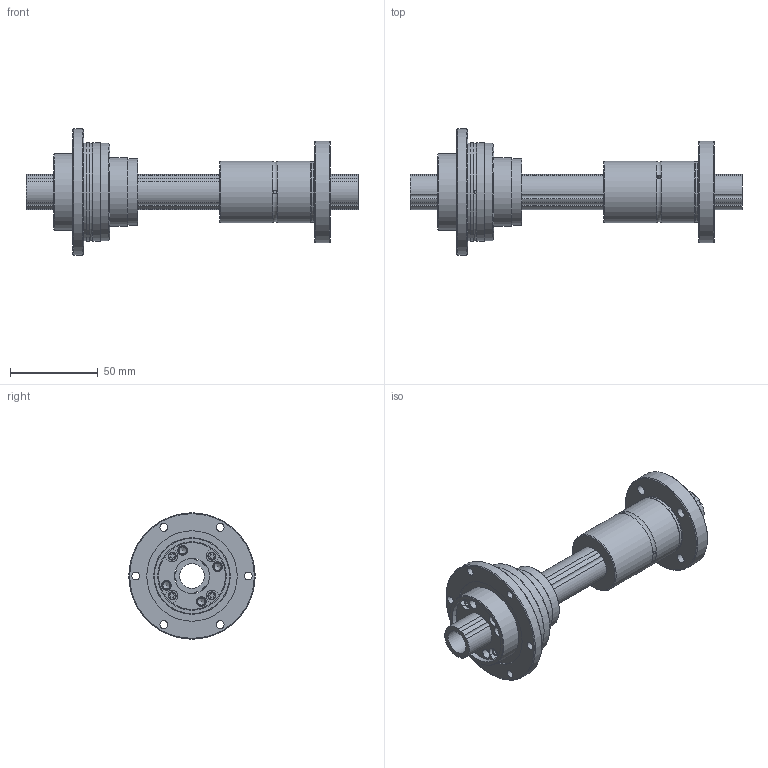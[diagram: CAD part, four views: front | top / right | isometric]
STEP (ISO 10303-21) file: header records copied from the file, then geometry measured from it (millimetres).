
FILE_DESCRIPTION(/* description */ ('STEP AP203'),/* implementation_level */ '2;1');
FILE_NAME(/* name */ 'NS2020A+189L',/* time_stamp */ '2025-06-11T08:45:39+02:00',/* author */ ('License CC BY-ND 4.0'),/* organization */ ('CADENAS'),/* preprocessor_version */ 'ST-DEVELOPER v19.3',/* originating_system */ 'PARTsolutions',/* authorisation */ ' ');
FILE_SCHEMA (('CONFIG_CONTROL_DESIGN'));
Length unit declared in the file: millimetre
Products named in the file (4): NS2020A+189L; NS 2020A+189L Shaft; NS 2020ASpline_b; NS 2020ASpline
Assembly tree (3 placements, depth 2):
  NS2020A+189L
    NS 2020A+189L Shaft
    NS 2020ASpline_b
    NS 2020ASpline
Bounding box: 189 x 72 x 72 mm (x, y, z)
Volume: 157731.2 mm3; surface area: 59048.2 mm2
Topology: 3 solids, 3 shells, 165 faces, 364 edges, 237 vertices
Faces by surface type: plane 74, cylinder 66, cone 16, torus 9
Full cylindrical faces by diameter (mm): 1.5 x1, 2 x3, 4.134 x4, 4.5 x10, 5.5 x8, 9.5 x4, 14 x1, 20 x2, 34.4 x1, 35 x2, 38 x2, 39 x2, 43.5 x2, 51.5 x2, 55.4 x1, 55.5 x1, 56 x2, 58 x1, 72 x1
Entity records: 4261 total; most frequent: DIRECTION 760, CARTESIAN_POINT 711, ORIENTED_EDGE 546, AXIS2_PLACEMENT_3D 322, FACE_BOUND 302, EDGE_LOOP 298, EDGE_CURVE 273, VERTEX_POINT 225
